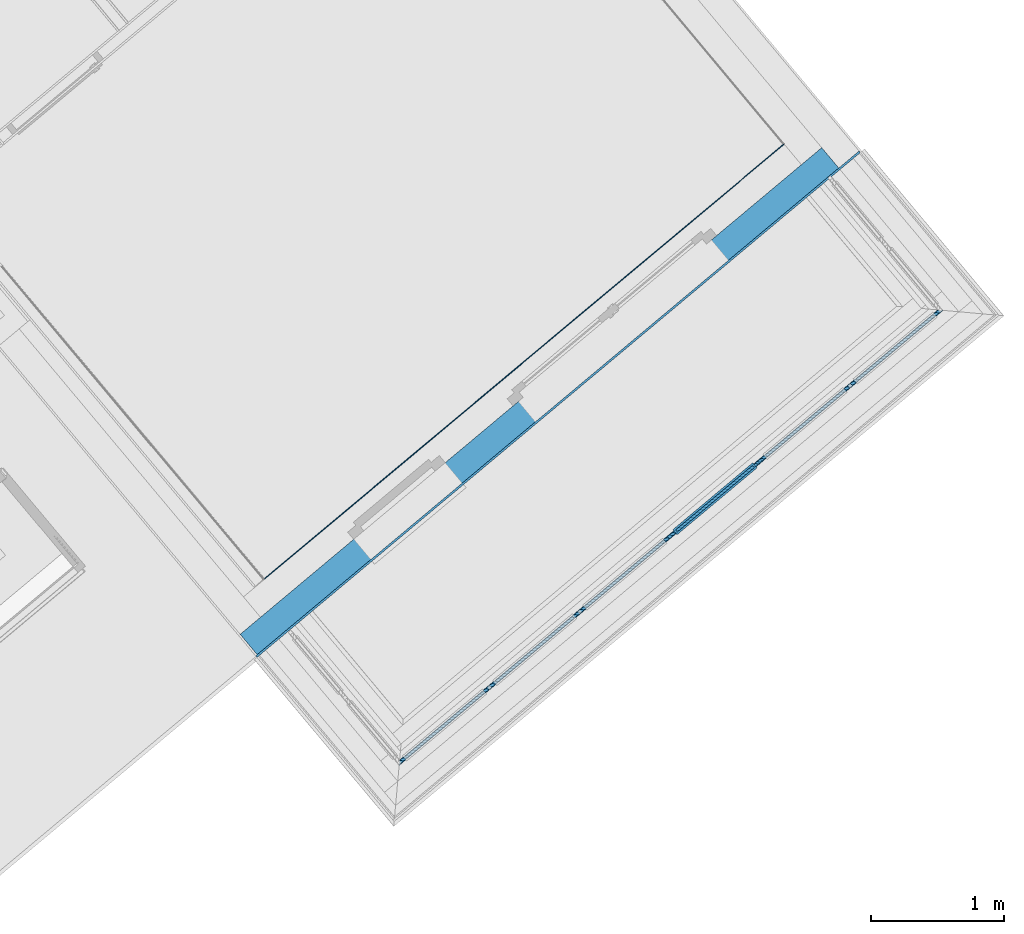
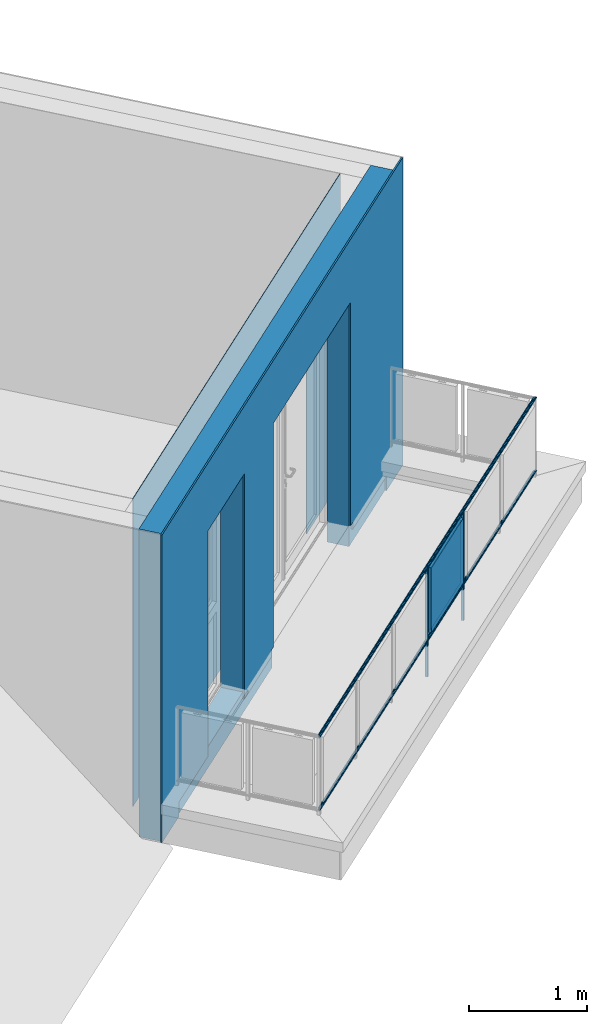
# One storey, part 32 of 47: 9 building element parts, 2 openings, 2 elements without a shape of their own.
"""IFC4 building model written with IfcOpenShell, lengths in metres."""

from ifc_helpers import new_model, entity, si_unit, converted_unit, derived_unit, direction, frame, origin_with_axes, place, context, subcontext, project, spatial, polygons, material, type_object, element, aggregate, save


model = new_model("IFC4")

# Units and contexts
model_context = context("Model", 3, precision=1e-05, world=origin_with_axes(), true_north=direction((0.0, 1.0)))
body_context = subcontext(model_context, "Body", "Model", "MODEL_VIEW")
ifc_project = project(units=[si_unit("LENGTHUNIT", "METRE"), si_unit("AREAUNIT", "SQUARE_METRE"), si_unit("VOLUMEUNIT", "CUBIC_METRE"), converted_unit("PLANEANGLEUNIT", "DEGREE", entity("IfcPlaneAngleMeasure", 0.0174532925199), si_unit("PLANEANGLEUNIT", "RADIAN"), dimensions=[0, 0, 0, 0, 0, 0, 0]), converted_unit("TIMEUNIT", "Year", entity("IfcTimeMeasure", 31556926.0), si_unit("TIMEUNIT", "SECOND"), dimensions=[0, 0, 1, 0, 0, 0, 0]), si_unit("MASSUNIT", "GRAM", prefix="KILO"), si_unit("THERMODYNAMICTEMPERATUREUNIT", "DEGREE_CELSIUS"), si_unit("LUMINOUSINTENSITYUNIT", "LUMEN"), si_unit("ENERGYUNIT", "JOULE", prefix="MEGA"), derived_unit("THERMALCONDUCTANCEUNIT", [(si_unit("POWERUNIT", "WATT"), 1), (si_unit("LENGTHUNIT", "METRE"), -1), (si_unit("THERMODYNAMICTEMPERATUREUNIT", "KELVIN"), -1)]), derived_unit("SPECIFICHEATCAPACITYUNIT", [(si_unit("ENERGYUNIT", "JOULE"), 1), (si_unit("MASSUNIT", "GRAM", prefix="KILO"), -1), (si_unit("THERMODYNAMICTEMPERATUREUNIT", "KELVIN"), -1)]), derived_unit("MASSDENSITYUNIT", [(si_unit("MASSUNIT", "GRAM", prefix="KILO"), 1), (si_unit("VOLUMEUNIT", "CUBIC_METRE"), -1)])], contexts=[model_context])

# Site, building, storey
site_placement = place(None, frame((-0.00153261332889, -0.00661245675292, 0.0), z_axis=(0.0, 0.0, 1.0), x_axis=(1.0, 0.0, 0.0)))
site = spatial("IfcSite", under=ifc_project, at=site_placement, Name="Site", CompositionType="ELEMENT")
building_placement = place(site_placement, origin_with_axes())
building = spatial("IfcBuilding", under=site, at=building_placement, Name="Building", CompositionType="ELEMENT")
storey_placement = place(building_placement, frame((0.0, 0.0, 8.66), z_axis=(0.0, 0.0, 1.0), x_axis=(1.0, 0.0, 0.0)))
storey = spatial("IfcBuildingStorey", under=building, at=storey_placement, Name="DG2", CompositionType="ELEMENT", Elevation=8.66)

# Wall, openings, building element parts
wall_type = type_object("IfcWallType", Name="AW EG 420", PredefinedType="NOTDEFINED")
wall_placement = place(storey_placement, frame((12.3645633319, 21.5152808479, 0.0), z_axis=(0.0, 0.0, 1.0), x_axis=(-0.766948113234, -0.641709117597, 0.0)))
wall = element("IfcWall", 1, at=wall_placement, inside=storey, type_object=wall_type, Name="Wand-002", PredefinedType="NOTDEFINED")
opening_1_placement = place(wall_placement, frame((4.36344013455, 0.0, 0.22), z_axis=(0.0, 0.0, 1.0), x_axis=(1.0, 0.0, 0.0)))
element("IfcOpeningElement", 2, at=opening_1_placement, cuts=wall, Name="Fenster-001", context=body_context, identifier="Reference", shape_type="Tessellation", body=[
    polygons([(-0.45, -0.215, 0.0), (-0.45, -0.215, 2.26), (-0.45, 2.71947921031, 2.26), (-0.45, 2.71947921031, 0.0), (-0.45, -3.13947921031, 0.0), (-0.45, -3.13947921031, 2.26), (0.45, -0.215, 2.26), (0.45, 2.71947921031, 2.26), (0.45, -3.13947921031, 2.26), (0.45, 2.71947921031, 0.0), (0.45, -0.215, 0.0), (0.45, -3.13947921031, 0.0)], [[[1, 2, 3, 4]], [[2, 1, 5, 6]], [[7, 8, 3, 2, 6, 9]], [[8, 10, 4, 3]], [[1, 4, 10, 11, 12, 5]], [[6, 5, 12, 9]], [[7, 11, 10, 8]], [[11, 7, 9, 12]]], closed=True),
])
opening_2_placement = place(wall_placement, frame((2.2470864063, 0.0, 0.22), z_axis=(0.0, 0.0, 1.0), x_axis=(1.0, 0.0, 0.0)))
element("IfcOpeningElement", 3, at=opening_2_placement, cuts=wall, Name="Tür-002", context=body_context, identifier="Reference", shape_type="Tessellation", body=[
    polygons([(-0.95, -0.215, -0.22), (-0.95, -0.215, 2.31), (-0.95, 2.71947921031, 2.31), (-0.95, 2.71947921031, -0.22), (0.95, -0.215, 2.31), (-1.0, -0.215, -0.22), (-1.0, -0.215, 2.36), (1.0, -0.215, 2.36), (1.0, -0.215, -0.22), (0.95, -0.215, -0.22), (0.95, 2.71947921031, 2.31), (0.95, 2.71947921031, -0.22), (1.0, -3.13947921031, -0.22), (-1.0, -3.13947921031, -0.22), (-1.0, -3.13947921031, 2.36), (1.0, -3.13947921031, 2.36)], [[[1, 2, 3, 4]], [[5, 2, 1, 6, 7, 8, 9, 10]], [[2, 5, 11, 3]], [[11, 12, 4, 3]], [[1, 4, 12, 10, 9, 13, 14, 6]], [[7, 6, 14, 15]], [[8, 7, 15, 16]], [[9, 8, 16, 13]], [[5, 10, 12, 11]], [[15, 14, 13, 16]]], closed=True),
])
ifc_material_1 = material(Name="Zementputz")
building_element_part_1_placement = place(wall_placement, origin_with_axes())
building_element_part_1 = element("IfcBuildingElementPart", 4, at=building_element_part_1_placement, material=ifc_material_1, Name="Zementputz", PredefinedType="NOTDEFINED", context=body_context, shape_type="Tessellation", body=[
    polygons([(3.1970864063, 0.0, 0.22), (3.1970864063, 0.0, 2.53), (1.2970864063, 0.0, 2.53), (1.2970864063, 0.0, 0.22), (1.2470864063, 0.0, 0.22), (1.2470864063, 0.0, 0.15), (0.415000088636, 0.0, 0.15), (0.415000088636, 0.0, 0.0), (0.0150000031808, 0.0, 0.0), (0.0150000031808, 0.0, 3.18), (5.94359493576, 0.0, 3.18), (5.94359493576, 0.0, 0.0), (5.52859493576, 0.0, 0.0), (5.52859493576, 0.0, 0.15), (4.81344013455, 0.0, 0.15), (4.81344013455, 0.0, 0.22), (4.81344013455, 0.0, 2.48), (3.91344013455, 0.0, 2.48), (3.91344013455, 0.0, 0.22), (3.91344013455, 0.0, 0.15), (3.2470864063, 0.0, 0.15), (3.2470864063, 0.0, 0.22), (3.1970864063, -0.0149999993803, 0.22), (3.1970864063, -0.0149999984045, 2.53), (1.2970864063, -0.0149999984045, 2.53), (1.2970864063, -0.0150000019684, 0.22), (1.2470864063, -0.0150000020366, 0.22), (1.2470864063, -0.0150000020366, 0.15), (0.414990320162, -0.01500000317, 0.15), (0.414990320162, -0.01500000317, 0.0), (0.0149902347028, -0.015, 0.0), (0.0149902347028, -0.015, 3.18), (5.94359493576, -0.015, 3.18), (5.94359493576, -0.015, 0.0), (5.52859493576, -0.0149999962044, 0.0), (5.52859493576, -0.0149999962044, 0.15), (4.81344013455, -0.0149999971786, 0.15), (4.81344013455, -0.0149999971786, 0.22), (4.81344013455, -0.0149999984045, 2.48), (3.91344013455, -0.0149999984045, 2.48), (3.91344013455, -0.0149999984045, 0.22), (3.91344013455, -0.0149999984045, 0.15), (3.2470864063, -0.0149999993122, 0.15), (3.2470864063, -0.0149999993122, 0.22)], [[[1, 2, 3, 4, 5, 6, 7, 8, 9, 10, 11, 12, 13, 14, 15, 16, 17, 18, 19, 20, 21, 22]], [[2, 1, 23, 24]], [[3, 2, 24, 25]], [[4, 3, 25, 26]], [[4, 26, 27, 5]], [[5, 27, 28, 6]], [[29, 7, 6, 28]], [[30, 8, 7, 29]], [[31, 9, 8, 30]], [[10, 9, 31, 32]], [[10, 32, 33, 11]], [[34, 12, 11, 33]], [[12, 34, 35, 13]], [[13, 35, 36, 14]], [[14, 36, 37, 15]], [[16, 15, 37, 38]], [[16, 38, 39, 17]], [[17, 39, 40, 18]], [[18, 40, 41, 19]], [[41, 42, 20, 19]], [[43, 21, 20, 42]], [[44, 22, 21, 43]], [[23, 1, 22, 44]], [[24, 23, 44, 43, 42, 41, 40, 39, 38, 37, 36, 35, 34, 33, 32, 31, 30, 29, 28, 27, 26, 25]]], closed=True),
])
ifc_material_2 = material(Name="EPS 1")
building_element_part_2_placement = place(wall_placement, origin_with_axes())
building_element_part_2 = element("IfcBuildingElementPart", 5, at=building_element_part_2_placement, material=ifc_material_2, Name="EPS 1", PredefinedType="NOTDEFINED", context=body_context, shape_type="Tessellation", body=[
    polygons([(3.1970864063, -0.015, 0.0), (3.1970864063, -0.015, 2.53), (1.2970864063, -0.015, 2.53), (1.2970864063, -0.015, 0.0), (0.214990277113, -0.015, 0.0), (0.214990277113, -0.015, 3.18), (5.92859493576, -0.015, 3.18), (5.92859493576, -0.015, 0.0), (4.81344013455, -0.015, 2.48), (3.91344013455, -0.015, 2.48), (3.91344013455, -0.015, 0.22), (4.81344013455, -0.015, 0.22), (3.1970864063, -0.215, 0.0), (3.1970864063, -0.215, 2.53), (1.2970864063, -0.215, 2.53), (1.2970864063, -0.215, 0.0), (0.21486003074, -0.215, 0.0), (0.21486003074, -0.215, 3.18), (5.92859493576, -0.215, 3.18), (5.92859493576, -0.215, 0.0), (4.81344013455, -0.215, 2.48), (3.91344013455, -0.215, 2.48), (3.91344013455, -0.215, 0.22), (4.81344013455, -0.215, 0.22)], [[[1, 2, 3, 4, 5, 6, 7, 8], [9, 10, 11, 12]], [[2, 1, 13, 14]], [[3, 2, 14, 15]], [[4, 3, 15, 16]], [[4, 16, 17, 5]], [[6, 5, 17, 18]], [[6, 18, 19, 7]], [[20, 8, 7, 19]], [[13, 1, 8, 20]], [[9, 21, 22, 10]], [[10, 22, 23, 11]], [[11, 23, 24, 12]], [[12, 24, 21, 9]], [[14, 13, 20, 19, 18, 17, 16, 15], [23, 22, 21, 24]]], closed=True),
])
building_element_part_3_placement = place(wall_placement, origin_with_axes())
building_element_part_3 = element("IfcBuildingElementPart", 6, at=building_element_part_3_placement, material=ifc_material_1, Name="Zementputz", PredefinedType="NOTDEFINED", context=body_context, shape_type="Tessellation", body=[
    polygons([(3.2470864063, -0.415, 0.0), (3.2470864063, -0.415, 2.58), (1.2470864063, -0.415, 2.58), (1.2470864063, -0.415, 0.0), (0.419729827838, -0.415, 0.0), (0.419729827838, -0.415, 3.18), (5.52859493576, -0.415, 3.18), (5.52859493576, -0.415, 0.0), (4.81344013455, -0.415, 2.48), (3.91344013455, -0.415, 2.48), (3.91344013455, -0.415, 0.22), (4.81344013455, -0.415, 0.22), (3.2470864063, -0.42, 0.0), (3.2470864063, -0.42, 2.58), (1.2470864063, -0.42, 2.58), (1.2470864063, -0.42, 0.0), (0.419726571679, -0.42, 0.0), (0.419726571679, -0.42, 3.18), (5.52859493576, -0.42, 3.18), (5.52859493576, -0.42, 0.0), (4.81344013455, -0.42, 2.48), (3.91344013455, -0.42, 2.48), (3.91344013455, -0.42, 0.22), (4.81344013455, -0.42, 0.22)], [[[1, 2, 3, 4, 5, 6, 7, 8], [9, 10, 11, 12]], [[2, 1, 13, 14]], [[3, 2, 14, 15]], [[4, 3, 15, 16]], [[4, 16, 17, 5]], [[6, 5, 17, 18]], [[6, 18, 19, 7]], [[20, 8, 7, 19]], [[13, 1, 8, 20]], [[9, 21, 22, 10]], [[10, 22, 23, 11]], [[11, 23, 24, 12]], [[12, 24, 21, 9]], [[14, 13, 20, 19, 18, 17, 16, 15], [23, 22, 21, 24]]], closed=True),
])
aggregate(wall, [building_element_part_1, building_element_part_2, building_element_part_3])

# Railing, building element parts
railing_type = type_object("IfcRailingType", Name="Geländerart", PredefinedType="NOTDEFINED")
railing_placement = place(storey_placement, frame((8.09801261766, 17.9211539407, 0.38), z_axis=(0.0, 0.0, 1.0), x_axis=(1.0, 0.0, 0.0)))
railing = element("IfcRailing", 7, at=railing_placement, inside=storey, type_object=railing_type, Name="Geländer - 001", PredefinedType="NOTDEFINED")
ifc_material_3 = material(Name="Aluminium")
building_element_part_4_placement = place(railing_placement, origin_with_axes())
building_element_part_4 = element("IfcBuildingElementPart", 8, at=building_element_part_4_placement, material=ifc_material_3, Name="Aluminium", PredefinedType="NOTDEFINED", context=body_context, shape_type="Tessellation", body=[
    polygons([(0.783936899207, -0.991475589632, 0.825), (0.783908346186, -0.991796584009, 0.827604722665), (4.83553217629, 2.39759944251, 0.827604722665), (4.83521161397, 2.39762838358, 0.825), (0.783908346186, -0.991796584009, 0.822395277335), (0.783823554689, -0.992749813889, 0.81986969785), (0.783685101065, -0.994306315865, 0.8175), (0.783497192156, -0.99641879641, 0.815358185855), (0.78326553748, -0.999023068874, 0.813509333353), (0.782997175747, -1.00204000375, 0.812009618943), (0.782700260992, -1.00537793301, 0.810904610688), (0.782383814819, -1.00893543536, 0.810227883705), (0.782057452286, -1.01260441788, 0.81), (0.781731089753, -1.0162734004, 0.810227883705), (0.781414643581, -1.01983090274, 0.810904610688), (0.781117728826, -1.023168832, 0.812009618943), (0.780849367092, -1.02618576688, 0.813509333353), (0.780617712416, -1.02879003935, 0.815358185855), (0.780429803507, -1.03090251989, 0.8175), (0.780291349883, -1.03245902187, 0.81986969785), (0.780206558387, -1.03341225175, 0.822395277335), (0.780178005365, -1.03373324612, 0.825), (0.780206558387, -1.03341225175, 0.827604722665), (0.780291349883, -1.03245902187, 0.83013030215), (0.780429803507, -1.03090251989, 0.8325), (0.780617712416, -1.02879003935, 0.834641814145), (0.780849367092, -1.02618576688, 0.836490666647), (0.781117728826, -1.023168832, 0.837990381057), (0.781414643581, -1.01983090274, 0.839095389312), (0.781731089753, -1.0162734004, 0.839772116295), (0.782057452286, -1.01260441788, 0.84), (0.782383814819, -1.00893543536, 0.839772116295), (0.782700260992, -1.00537793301, 0.839095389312), (0.782997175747, -1.00204000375, 0.837990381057), (0.78326553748, -0.999023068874, 0.836490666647), (0.783497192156, -0.99641879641, 0.834641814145), (0.783685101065, -0.994306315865, 0.8325), (0.783823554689, -0.992749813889, 0.83013030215), (4.83648412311, 2.39751349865, 0.83013030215), (4.83803853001, 2.39737316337, 0.8325), (4.84014816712, 2.39718270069, 0.834641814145), (4.84274893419, 2.3969478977, 0.836490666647), (4.84576180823, 2.3966758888, 0.837990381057), (4.84909524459, 2.39637493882, 0.839095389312), (4.85264795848, 2.39605419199, 0.839772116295), (4.85631200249, 2.39572339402, 0.84), (4.85997604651, 2.39539259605, 0.839772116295), (4.8635287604, 2.39507184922, 0.839095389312), (4.86686219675, 2.39477089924, 0.837990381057), (4.86987507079, 2.39449889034, 0.836490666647), (4.87247583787, 2.39426408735, 0.834641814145), (4.87458547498, 2.39407362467, 0.8325), (4.87613988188, 2.39393328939, 0.83013030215), (4.8770918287, 2.39384734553, 0.827604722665), (4.87741239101, 2.39381840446, 0.825), (4.8770918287, 2.39384734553, 0.822395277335), (4.87613988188, 2.39393328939, 0.81986969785), (4.87458547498, 2.39407362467, 0.8175), (4.87247583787, 2.39426408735, 0.815358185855), (4.86987507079, 2.39449889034, 0.813509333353), (4.86686219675, 2.39477089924, 0.812009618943), (4.8635287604, 2.39507184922, 0.810904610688), (4.85997604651, 2.39539259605, 0.810227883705), (4.85631200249, 2.39572339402, 0.81), (4.85264795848, 2.39605419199, 0.810227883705), (4.84909524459, 2.39637493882, 0.810904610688), (4.84576180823, 2.3966758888, 0.812009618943), (4.84274893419, 2.3969478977, 0.813509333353), (4.84014816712, 2.39718270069, 0.815358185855), (4.83803853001, 2.39737316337, 0.8175), (4.83648412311, 2.39751349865, 0.81986969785), (4.83553217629, 2.39759944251, 0.822395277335)], [[[1, 2, 3, 4]], [[1, 5, 6, 7, 8, 9, 10, 11, 12, 13, 14, 15, 16, 17, 18, 19, 20, 21, 22, 23, 24, 25, 26, 27, 28, 29, 30, 31, 32, 33, 34, 35, 36, 37, 38, 2]], [[2, 38, 39, 3]], [[4, 3, 39, 40, 41, 42, 43, 44, 45, 46, 47, 48, 49, 50, 51, 52, 53, 54, 55, 56, 57, 58, 59, 60, 61, 62, 63, 64, 65, 66, 67, 68, 69, 70, 71, 72]], [[5, 1, 4, 72]], [[6, 5, 72, 71]], [[7, 6, 71, 70]], [[8, 7, 70, 69]], [[9, 8, 69, 68]], [[10, 9, 68, 67]], [[11, 10, 67, 66]], [[12, 11, 66, 65]], [[13, 12, 65, 64]], [[14, 13, 64, 63]], [[15, 14, 63, 62]], [[16, 15, 62, 61]], [[17, 16, 61, 60]], [[18, 17, 60, 59]], [[19, 18, 59, 58]], [[20, 19, 58, 57]], [[21, 20, 57, 56]], [[22, 21, 56, 55]], [[23, 22, 55, 54]], [[24, 23, 54, 53]], [[25, 24, 53, 52]], [[26, 25, 52, 51]], [[27, 26, 51, 50]], [[28, 27, 50, 49]], [[29, 28, 49, 48]], [[30, 29, 48, 47]], [[31, 30, 47, 46]], [[32, 31, 46, 45]], [[33, 32, 45, 44]], [[34, 33, 44, 43]], [[35, 34, 43, 42]], [[36, 35, 42, 41]], [[37, 36, 41, 40]], [[38, 37, 40, 39]]], closed=True),
])
building_element_part_5_placement = place(railing_placement, origin_with_axes())
building_element_part_5 = element("IfcBuildingElementPart", 9, at=building_element_part_5_placement, material=ifc_material_3, Name="Aluminium", PredefinedType="NOTDEFINED", context=body_context, shape_type="Tessellation", body=[
    polygons([(0.783936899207, -0.991475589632, 0.07), (0.783908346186, -0.991796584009, 0.072604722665), (4.83553217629, 2.39759944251, 0.072604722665), (4.83521161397, 2.39762838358, 0.07), (0.783908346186, -0.991796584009, 0.067395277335), (0.783823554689, -0.992749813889, 0.0648696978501), (0.783685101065, -0.994306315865, 0.0625), (0.783497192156, -0.99641879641, 0.0603581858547), (0.78326553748, -0.999023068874, 0.0585093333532), (0.782997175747, -1.00204000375, 0.0570096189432), (0.782700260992, -1.00537793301, 0.0559046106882), (0.782383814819, -1.00893543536, 0.0552278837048), (0.782057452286, -1.01260441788, 0.055), (0.781731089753, -1.0162734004, 0.0552278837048), (0.781414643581, -1.01983090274, 0.0559046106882), (0.781117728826, -1.023168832, 0.0570096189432), (0.780849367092, -1.02618576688, 0.0585093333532), (0.780617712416, -1.02879003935, 0.0603581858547), (0.780429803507, -1.03090251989, 0.0625), (0.780291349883, -1.03245902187, 0.0648696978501), (0.780206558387, -1.03341225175, 0.067395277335), (0.780178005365, -1.03373324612, 0.07), (0.780206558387, -1.03341225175, 0.072604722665), (0.780291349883, -1.03245902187, 0.0751303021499), (0.780429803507, -1.03090251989, 0.0775), (0.780617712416, -1.02879003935, 0.0796418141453), (0.780849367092, -1.02618576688, 0.0814906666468), (0.781117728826, -1.023168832, 0.0829903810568), (0.781414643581, -1.01983090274, 0.0840953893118), (0.781731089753, -1.0162734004, 0.0847721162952), (0.782057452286, -1.01260441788, 0.085), (0.782383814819, -1.00893543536, 0.0847721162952), (0.782700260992, -1.00537793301, 0.0840953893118), (0.782997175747, -1.00204000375, 0.0829903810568), (0.78326553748, -0.999023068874, 0.0814906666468), (0.783497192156, -0.99641879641, 0.0796418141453), (0.783685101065, -0.994306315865, 0.0775), (0.783823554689, -0.992749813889, 0.0751303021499), (4.83648412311, 2.39751349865, 0.0751303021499), (4.83803853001, 2.39737316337, 0.0775), (4.84014816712, 2.39718270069, 0.0796418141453), (4.84274893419, 2.3969478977, 0.0814906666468), (4.84576180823, 2.3966758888, 0.0829903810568), (4.84909524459, 2.39637493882, 0.0840953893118), (4.85264795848, 2.39605419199, 0.0847721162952), (4.85631200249, 2.39572339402, 0.085), (4.85997604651, 2.39539259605, 0.0847721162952), (4.8635287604, 2.39507184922, 0.0840953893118), (4.86686219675, 2.39477089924, 0.0829903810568), (4.86987507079, 2.39449889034, 0.0814906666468), (4.87247583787, 2.39426408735, 0.0796418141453), (4.87458547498, 2.39407362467, 0.0775), (4.87613988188, 2.39393328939, 0.0751303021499), (4.8770918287, 2.39384734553, 0.072604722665), (4.87741239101, 2.39381840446, 0.07), (4.8770918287, 2.39384734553, 0.067395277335), (4.87613988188, 2.39393328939, 0.0648696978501), (4.87458547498, 2.39407362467, 0.0625), (4.87247583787, 2.39426408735, 0.0603581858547), (4.86987507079, 2.39449889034, 0.0585093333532), (4.86686219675, 2.39477089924, 0.0570096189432), (4.8635287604, 2.39507184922, 0.0559046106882), (4.85997604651, 2.39539259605, 0.0552278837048), (4.85631200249, 2.39572339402, 0.055), (4.85264795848, 2.39605419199, 0.0552278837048), (4.84909524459, 2.39637493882, 0.0559046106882), (4.84576180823, 2.3966758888, 0.0570096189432), (4.84274893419, 2.3969478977, 0.0585093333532), (4.84014816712, 2.39718270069, 0.0603581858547), (4.83803853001, 2.39737316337, 0.0625), (4.83648412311, 2.39751349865, 0.0648696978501), (4.83553217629, 2.39759944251, 0.067395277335)], [[[1, 2, 3, 4]], [[1, 5, 6, 7, 8, 9, 10, 11, 12, 13, 14, 15, 16, 17, 18, 19, 20, 21, 22, 23, 24, 25, 26, 27, 28, 29, 30, 31, 32, 33, 34, 35, 36, 37, 38, 2]], [[2, 38, 39, 3]], [[4, 3, 39, 40, 41, 42, 43, 44, 45, 46, 47, 48, 49, 50, 51, 52, 53, 54, 55, 56, 57, 58, 59, 60, 61, 62, 63, 64, 65, 66, 67, 68, 69, 70, 71, 72]], [[5, 1, 4, 72]], [[6, 5, 72, 71]], [[7, 6, 71, 70]], [[8, 7, 70, 69]], [[9, 8, 69, 68]], [[10, 9, 68, 67]], [[11, 10, 67, 66]], [[12, 11, 66, 65]], [[13, 12, 65, 64]], [[14, 13, 64, 63]], [[15, 14, 63, 62]], [[16, 15, 62, 61]], [[17, 16, 61, 60]], [[18, 17, 60, 59]], [[19, 18, 59, 58]], [[20, 19, 58, 57]], [[21, 20, 57, 56]], [[22, 21, 56, 55]], [[23, 22, 55, 54]], [[24, 23, 54, 53]], [[25, 24, 53, 52]], [[26, 25, 52, 51]], [[27, 26, 51, 50]], [[28, 27, 50, 49]], [[29, 28, 49, 48]], [[30, 29, 48, 47]], [[31, 30, 47, 46]], [[32, 31, 46, 45]], [[33, 32, 45, 44]], [[34, 33, 44, 43]], [[35, 34, 43, 42]], [[36, 35, 42, 41]], [[37, 36, 41, 40]], [[38, 37, 40, 39]]], closed=True),
])
building_element_part_6_placement = place(railing_placement, origin_with_axes())
building_element_part_6 = element("IfcBuildingElementPart", 10, at=building_element_part_6_placement, material=ifc_material_3, Name="Aluminium", PredefinedType="NOTDEFINED", context=body_context, shape_type="Tessellation", body=[
    polygons([(2.83679280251, 0.689992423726, -0.3), (2.82075179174, 0.709167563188, -0.3), (2.82075179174, 0.709167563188, 0.82), (2.83679280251, 0.689992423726, 0.82), (2.81761766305, 0.673951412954, -0.3), (2.80157665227, 0.693126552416, -0.3), (2.80157665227, 0.693126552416, 0.82), (2.81761766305, 0.673951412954, 0.82)], [[[1, 2, 3, 4]], [[1, 5, 6, 2]], [[2, 6, 7, 3]], [[4, 3, 7, 8]], [[5, 1, 4, 8]], [[6, 5, 8, 7]]], closed=True),
])
ifc_material_4 = material(Name="Profilit")
building_element_part_7_placement = place(railing_placement, origin_with_axes())
building_element_part_7 = element("IfcBuildingElementPart", 11, at=building_element_part_7_placement, material=ifc_material_4, Name="Profilit", PredefinedType="NOTDEFINED", context=body_context, shape_type="Tessellation", body=[
    polygons([(3.44195538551, 1.22557755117, 0.135), (2.86262368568, 0.740936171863, 0.135), (2.86262368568, 0.740936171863, 0.775), (3.44195538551, 1.22557755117, 0.775), (2.8754564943, 0.725596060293, 0.135), (3.45478819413, 1.21023743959, 0.135), (2.8754564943, 0.725596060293, 0.775), (3.45478819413, 1.21023743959, 0.775)], [[[1, 2, 3, 4]], [[5, 2, 1, 6]], [[7, 3, 2, 5]], [[4, 3, 7, 8]], [[1, 4, 8, 6]], [[7, 5, 6, 8]]], closed=True),
])
building_element_part_8_placement = place(railing_placement, origin_with_axes())
building_element_part_8 = element("IfcBuildingElementPart", 12, at=building_element_part_8_placement, material=ifc_material_3, Name="Aluminium", PredefinedType="NOTDEFINED", context=body_context, shape_type="Tessellation", body=[
    polygons([(2.93263146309, 0.789723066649, 0.12), (2.98632185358, 0.834637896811, 0.12), (2.98632185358, 0.834637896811, 0.095), (2.93263146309, 0.789723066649, 0.095), (2.93583966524, 0.785888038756, 0.12), (2.98953005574, 0.830802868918, 0.12), (2.98953005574, 0.830802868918, 0.095), (2.93583966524, 0.785888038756, 0.095)], [[[1, 2, 3, 4]], [[5, 6, 2, 1]], [[2, 6, 7, 3]], [[4, 3, 7, 8]], [[1, 4, 8, 5]], [[8, 7, 6, 5]]], closed=True),
    polygons([(3.32788182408, 1.12037074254, 0.12), (3.38157221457, 1.1652855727, 0.12), (3.38157221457, 1.1652855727, 0.095), (3.32788182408, 1.12037074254, 0.095), (3.33109002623, 1.11653571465, 0.12), (3.38478041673, 1.16145054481, 0.12), (3.38478041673, 1.16145054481, 0.095), (3.33109002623, 1.11653571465, 0.095)], [[[1, 2, 3, 4]], [[5, 6, 2, 1]], [[2, 6, 7, 3]], [[4, 3, 7, 8]], [[1, 4, 8, 5]], [[8, 7, 6, 5]]], closed=True),
    polygons([(3.38157221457, 1.1652855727, 0.79), (3.32788182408, 1.12037074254, 0.79), (3.32788182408, 1.12037074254, 0.795), (3.38157221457, 1.1652855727, 0.795), (3.38478041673, 1.16145054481, 0.79), (3.33109002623, 1.11653571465, 0.79), (3.33109002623, 1.11653571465, 0.795), (3.38478041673, 1.16145054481, 0.795)], [[[1, 2, 3, 4]], [[5, 6, 2, 1]], [[2, 6, 7, 3]], [[4, 3, 7, 8]], [[1, 4, 8, 5]], [[8, 7, 6, 5]]], closed=True),
    polygons([(2.98632185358, 0.834637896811, 0.79), (2.93263146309, 0.789723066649, 0.79), (2.93263146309, 0.789723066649, 0.795), (2.98632185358, 0.834637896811, 0.795), (2.98953005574, 0.830802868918, 0.79), (2.93583966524, 0.785888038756, 0.79), (2.93583966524, 0.785888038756, 0.795), (2.98953005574, 0.830802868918, 0.795)], [[[1, 2, 3, 4]], [[5, 6, 2, 1]], [[2, 6, 7, 3]], [[4, 3, 7, 8]], [[1, 4, 8, 5]], [[8, 7, 6, 5]]], closed=True),
    polygons([(2.87357601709, 0.704466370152, 0.12), (2.84149399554, 0.742816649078, 0.12), (3.44383586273, 1.24670724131, 0.12), (3.47591788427, 1.20835696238, 0.12), (2.88891612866, 0.71729917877, 0.14), (2.87929152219, 0.728804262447, 0.14), (2.8754564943, 0.725596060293, 0.135), (2.86262368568, 0.740936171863, 0.135), (2.86645871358, 0.744144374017, 0.14), (2.85683410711, 0.755649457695, 0.14), (3.42849575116, 1.23387443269, 0.14), (3.42849575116, 1.23387443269, 0.77), (2.85683410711, 0.755649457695, 0.77), (2.85683410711, 0.755649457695, 0.14), (2.84149399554, 0.742816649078, 0.12), (2.84149399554, 0.742816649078, 0.79), (3.44383586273, 1.24670724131, 0.79), (3.47591788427, 1.20835696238, 0.79), (2.87357601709, 0.704466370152, 0.79), (2.87357601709, 0.704466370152, 0.12), (2.88891612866, 0.71729917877, 0.14), (2.88891612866, 0.71729917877, 0.77), (3.4605777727, 1.19552415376, 0.77), (3.4605777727, 1.19552415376, 0.14), (3.45095316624, 1.20702923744, 0.14), (3.45095316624, 1.20702923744, 0.77), (2.87929152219, 0.728804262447, 0.77), (2.87929152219, 0.728804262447, 0.14), (2.8754564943, 0.725596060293, 0.135), (2.8754564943, 0.725596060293, 0.775), (3.45478819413, 1.21023743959, 0.775), (3.45478819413, 1.21023743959, 0.135), (3.44195538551, 1.22557755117, 0.135), (3.44195538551, 1.22557755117, 0.775), (2.86262368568, 0.740936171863, 0.775), (2.86262368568, 0.740936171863, 0.135), (2.86645871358, 0.744144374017, 0.14), (2.86645871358, 0.744144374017, 0.77), (3.43812035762, 1.22236934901, 0.77), (3.43812035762, 1.22236934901, 0.14)], [[[1, 2, 3, 4]], [[1, 5, 6, 7, 8, 9, 10, 2]], [[2, 10, 11, 12, 13, 14, 15, 16, 17, 3]], [[4, 3, 17, 18]], [[5, 1, 4, 18, 19, 20, 21, 22, 23, 24]], [[6, 5, 24, 25]], [[7, 6, 25, 26, 27, 28, 29, 30, 31, 32]], [[8, 7, 32, 33]], [[9, 8, 33, 34, 35, 36, 37, 38, 39, 40]], [[10, 9, 40, 11]], [[11, 40, 39, 12]], [[12, 39, 38, 13]], [[13, 38, 37, 14]], [[20, 15, 14, 37, 36, 29, 28, 21]], [[19, 16, 15, 20]], [[18, 17, 16, 19]], [[27, 22, 21, 28]], [[26, 23, 22, 27]], [[25, 24, 23, 26]], [[35, 30, 29, 36]], [[34, 31, 30, 35]], [[33, 32, 31, 34]]], closed=True),
])
building_element_part_9_placement = place(railing_placement, origin_with_axes())
building_element_part_9 = element("IfcBuildingElementPart", 13, at=building_element_part_9_placement, material=ifc_material_3, Name="Aluminium", PredefinedType="NOTDEFINED", context=body_context, shape_type="Tessellation", body=[
    polygons([(3.51583522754, 1.25804705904, -0.3), (3.49979421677, 1.2772221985, -0.3), (3.49979421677, 1.2772221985, 0.82), (3.51583522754, 1.25804705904, 0.82), (3.49666008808, 1.24200604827, -0.3), (3.48061907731, 1.26118118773, -0.3), (3.48061907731, 1.26118118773, 0.82), (3.49666008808, 1.24200604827, 0.82)], [[[1, 2, 3, 4]], [[1, 5, 6, 2]], [[2, 6, 7, 3]], [[4, 3, 7, 8]], [[5, 1, 4, 8]], [[6, 5, 8, 7]]], closed=True),
])
aggregate(railing, [building_element_part_4, building_element_part_5, building_element_part_6, building_element_part_7, building_element_part_8, building_element_part_9])

save(model, "model.ifc")
